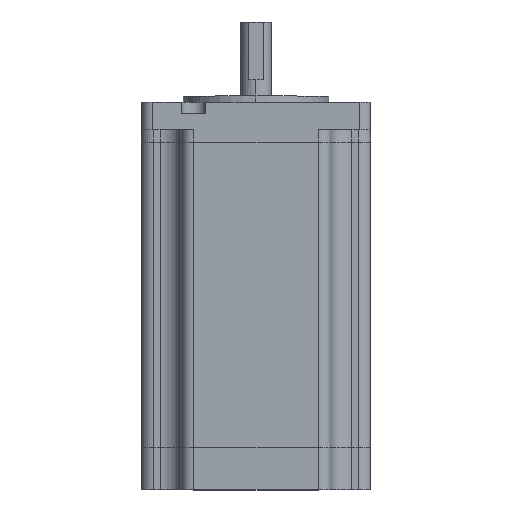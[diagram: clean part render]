
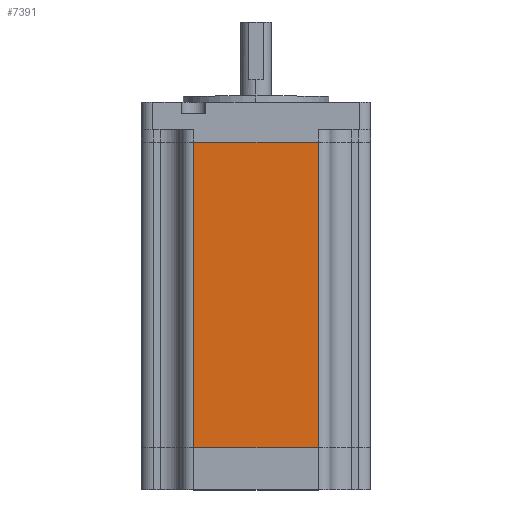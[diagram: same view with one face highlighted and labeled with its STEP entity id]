
A CAD part, top view. The second image highlights one B-rep face of the part: STEP entity #7391.
In plain terms, the highlighted planar face has unit normal (0, 0, 1).
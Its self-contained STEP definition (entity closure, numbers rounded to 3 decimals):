
#239 = EDGE_CURVE ( 'NONE', #6242, #1699, #2107, .T. ) ;
#412 = ORIENTED_EDGE ( 'NONE', *, *, #2026, .T. ) ;
#1396 = LINE ( 'NONE', #1440, #8061 ) ;
#1440 = CARTESIAN_POINT ( 'NONE',  ( 13.65, 80., 0. ) ) ;
#1528 = EDGE_CURVE ( 'NONE', #7777, #1699, #4710, .T. ) ;
#1542 = CARTESIAN_POINT ( 'NONE',  ( 46.35, 80., 0. ) ) ;
#1660 = LINE ( 'NONE', #6916, #2769 ) ;
#1699 = VERTEX_POINT ( 'NONE', #4743 ) ;
#1772 = DIRECTION ( 'NONE',  ( 0., -1., 0. ) ) ;
#2026 = EDGE_CURVE ( 'NONE', #4578, #6242, #1660, .T. ) ;
#2107 = LINE ( 'NONE', #5961, #6854 ) ;
#2261 = ORIENTED_EDGE ( 'NONE', *, *, #2296, .F. ) ;
#2296 = EDGE_CURVE ( 'NONE', #4578, #7777, #1396, .T. ) ;
#2769 = VECTOR ( 'NONE', #1772, 1000. ) ;
#2824 = AXIS2_PLACEMENT_3D ( 'NONE', #4855, #7438, #3578 ) ;
#3174 = CARTESIAN_POINT ( 'NONE',  ( 46.35, 80., 0. ) ) ;
#3578 = DIRECTION ( 'NONE',  ( -1., 0., 0. ) ) ;
#4468 = ORIENTED_EDGE ( 'NONE', *, *, #239, .T. ) ;
#4578 = VERTEX_POINT ( 'NONE', #6107 ) ;
#4710 = LINE ( 'NONE', #3174, #6418 ) ;
#4743 = CARTESIAN_POINT ( 'NONE',  ( 46.35, 0., 0. ) ) ;
#4855 = CARTESIAN_POINT ( 'NONE',  ( 13.65, 80., 0. ) ) ;
#5314 = DIRECTION ( 'NONE',  ( 1., 0., 0. ) ) ;
#5844 = DIRECTION ( 'NONE',  ( 1., 0., 0. ) ) ;
#5961 = CARTESIAN_POINT ( 'NONE',  ( 13.65, 0., 0. ) ) ;
#6063 = FACE_OUTER_BOUND ( 'NONE', #7774, .T. ) ;
#6107 = CARTESIAN_POINT ( 'NONE',  ( 13.65, 80., 0. ) ) ;
#6242 = VERTEX_POINT ( 'NONE', #7335 ) ;
#6394 = DIRECTION ( 'NONE',  ( 0., -1., 0. ) ) ;
#6418 = VECTOR ( 'NONE', #6394, 1000. ) ;
#6675 = ORIENTED_EDGE ( 'NONE', *, *, #1528, .F. ) ;
#6793 = PLANE ( 'NONE',  #2824 ) ;
#6854 = VECTOR ( 'NONE', #5844, 1000. ) ;
#6916 = CARTESIAN_POINT ( 'NONE',  ( 13.65, 80., 0. ) ) ;
#7335 = CARTESIAN_POINT ( 'NONE',  ( 13.65, 0., 0. ) ) ;
#7391 = ADVANCED_FACE ( 'NONE', ( #6063 ), #6793, .F. ) ;
#7438 = DIRECTION ( 'NONE',  ( 0., 0., -1. ) ) ;
#7774 = EDGE_LOOP ( 'NONE', ( #4468, #6675, #2261, #412 ) ) ;
#7777 = VERTEX_POINT ( 'NONE', #1542 ) ;
#8061 = VECTOR ( 'NONE', #5314, 1000. ) ;
